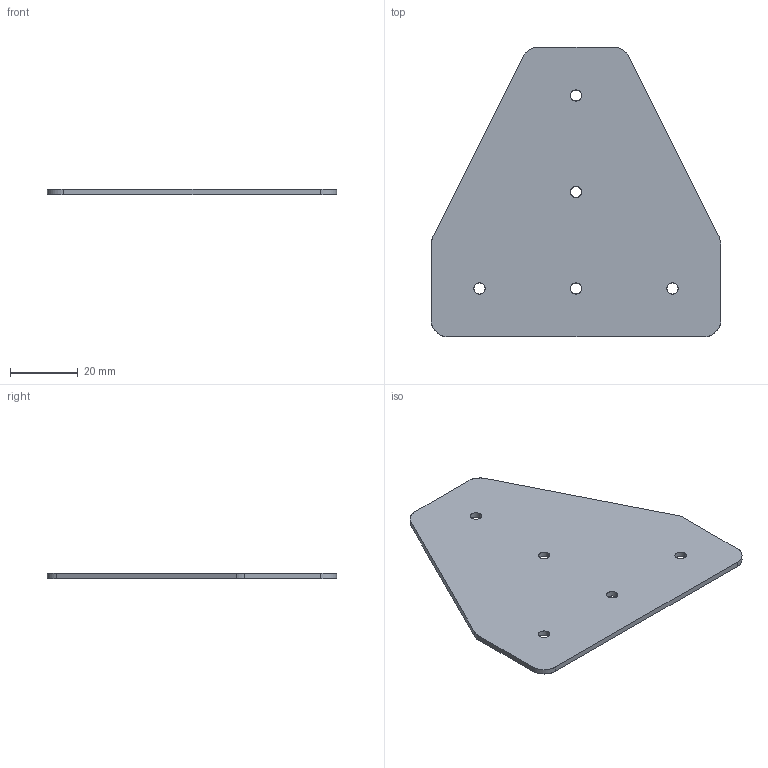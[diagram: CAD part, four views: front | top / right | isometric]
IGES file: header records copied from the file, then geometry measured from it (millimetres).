
Start section: SolidWorks IGES file using analytic representation for surfaces
Global section: file name: C:\Working\Gusset Convert\DRP-002-0008-01.igs; native system: SolidWorks 2010; preprocessor: SolidWorks 2010; author: mbush2; date: 100624.090101; units: inch
Bounding box: 85.72 x 85.72 x 1.59 mm (x, y, z)
Surface area: 11867.9 mm2 (no closed solid volume)
Topology: 0 solids, 0 shells, 24 faces, 492 edges, 492 vertices
Faces by surface type: revolution 16, bspline 8
